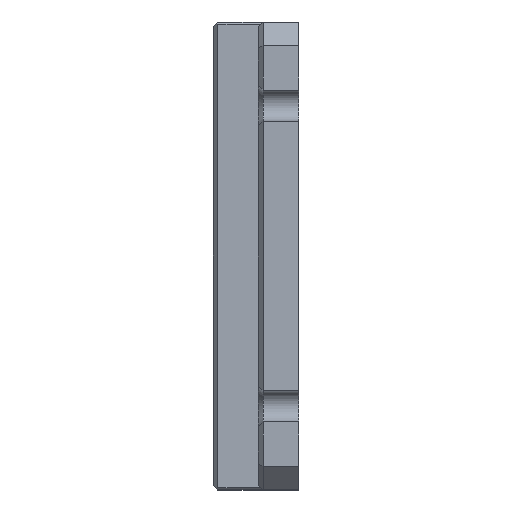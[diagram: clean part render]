
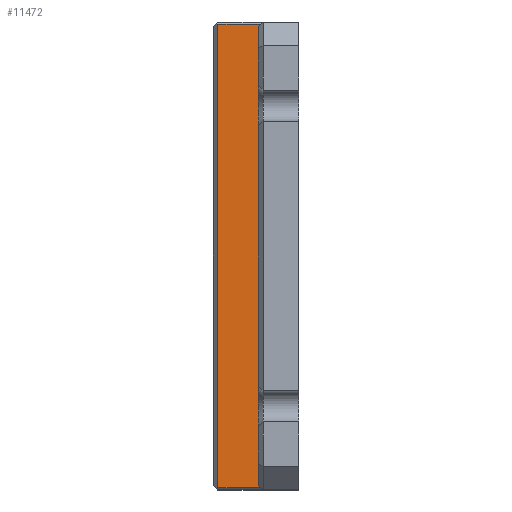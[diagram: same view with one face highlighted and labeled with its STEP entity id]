
A CAD part, left-side view. The second image highlights one B-rep face of the part: STEP entity #11472.
In plain terms, the highlighted planar face has unit normal (-1, 0, 0).
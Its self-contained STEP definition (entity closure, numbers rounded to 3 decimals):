
#684 = EDGE_CURVE ( 'NONE', #3446, #4052, #6550, .T. ) ;
#842 = CARTESIAN_POINT ( 'NONE',  ( -151., 16., -97. ) ) ;
#856 = CARTESIAN_POINT ( 'NONE',  ( -151., 36., -98. ) ) ;
#1171 = LINE ( 'NONE', #1457, #9588 ) ;
#1457 = CARTESIAN_POINT ( 'NONE',  ( -151., 36., -97. ) ) ;
#1519 = VERTEX_POINT ( 'NONE', #4093 ) ;
#1575 = ORIENTED_EDGE ( 'NONE', *, *, #684, .T. ) ;
#1663 = VECTOR ( 'NONE', #11638, 1000. ) ;
#2135 = ORIENTED_EDGE ( 'NONE', *, *, #11974, .T. ) ;
#2410 = CARTESIAN_POINT ( 'NONE',  ( -151., 34., -98. ) ) ;
#2511 = CARTESIAN_POINT ( 'NONE',  ( -151., 25.5, -87.5 ) ) ;
#3398 = CARTESIAN_POINT ( 'NONE',  ( -151., 17., -98. ) ) ;
#3446 = VERTEX_POINT ( 'NONE', #6966 ) ;
#4052 = VERTEX_POINT ( 'NONE', #15469 ) ;
#4093 = CARTESIAN_POINT ( 'NONE',  ( -151., 17., -96. ) ) ;
#4139 = VECTOR ( 'NONE', #11972, 1000. ) ;
#4384 = LINE ( 'NONE', #12355, #16382 ) ;
#6186 = PLANE ( 'NONE',  #9147 ) ;
#6550 = LINE ( 'NONE', #2410, #15174 ) ;
#6785 = DIRECTION ( 'NONE',  ( 0., -1., 0. ) ) ;
#6966 = CARTESIAN_POINT ( 'NONE',  ( -151., 34., 97. ) ) ;
#7838 = LINE ( 'NONE', #10110, #12253 ) ;
#7872 = ORIENTED_EDGE ( 'NONE', *, *, #13434, .T. ) ;
#8071 = VERTEX_POINT ( 'NONE', #842 ) ;
#8190 = DIRECTION ( 'NONE',  ( 0., 1., 0. ) ) ;
#8572 = VERTEX_POINT ( 'NONE', #15759 ) ;
#9147 = AXIS2_PLACEMENT_3D ( 'NONE', #856, #11598, #10241 ) ;
#9172 = ORIENTED_EDGE ( 'NONE', *, *, #9638, .T. ) ;
#9338 = ORIENTED_EDGE ( 'NONE', *, *, #13614, .T. ) ;
#9442 = LINE ( 'NONE', #3398, #1663 ) ;
#9588 = VECTOR ( 'NONE', #6785, 1000. ) ;
#9638 = EDGE_CURVE ( 'NONE', #4052, #8071, #1171, .T. ) ;
#10110 = CARTESIAN_POINT ( 'NONE',  ( -151., 123.5, -10.5 ) ) ;
#10241 = DIRECTION ( 'NONE',  ( 0., 0., -1. ) ) ;
#10560 = EDGE_LOOP ( 'NONE', ( #7872, #1575, #9172, #12925, #9338, #2135 ) ) ;
#11472 = ADVANCED_FACE ( 'NONE', ( #12481 ), #6186, .F. ) ;
#11598 = DIRECTION ( 'NONE',  ( 1., 0., 0. ) ) ;
#11638 = DIRECTION ( 'NONE',  ( 0., 0., 1. ) ) ;
#11972 = DIRECTION ( 'NONE',  ( 0., 0.707, 0.707 ) ) ;
#11974 = EDGE_CURVE ( 'NONE', #8572, #14770, #7838, .T. ) ;
#12253 = VECTOR ( 'NONE', #15691, 1000. ) ;
#12355 = CARTESIAN_POINT ( 'NONE',  ( -151., 36., 97. ) ) ;
#12481 = FACE_OUTER_BOUND ( 'NONE', #10560, .T. ) ;
#12925 = ORIENTED_EDGE ( 'NONE', *, *, #16945, .T. ) ;
#13434 = EDGE_CURVE ( 'NONE', #14770, #3446, #4384, .T. ) ;
#13614 = EDGE_CURVE ( 'NONE', #1519, #8572, #9442, .T. ) ;
#14216 = CARTESIAN_POINT ( 'NONE',  ( -151., 16., 97. ) ) ;
#14495 = DIRECTION ( 'NONE',  ( 0., 0., -1. ) ) ;
#14770 = VERTEX_POINT ( 'NONE', #14216 ) ;
#14873 = LINE ( 'NONE', #2511, #4139 ) ;
#15174 = VECTOR ( 'NONE', #14495, 1000. ) ;
#15469 = CARTESIAN_POINT ( 'NONE',  ( -151., 34., -97. ) ) ;
#15691 = DIRECTION ( 'NONE',  ( 0., -0.707, 0.707 ) ) ;
#15759 = CARTESIAN_POINT ( 'NONE',  ( -151., 17., 96. ) ) ;
#16382 = VECTOR ( 'NONE', #8190, 1000. ) ;
#16945 = EDGE_CURVE ( 'NONE', #8071, #1519, #14873, .T. ) ;
